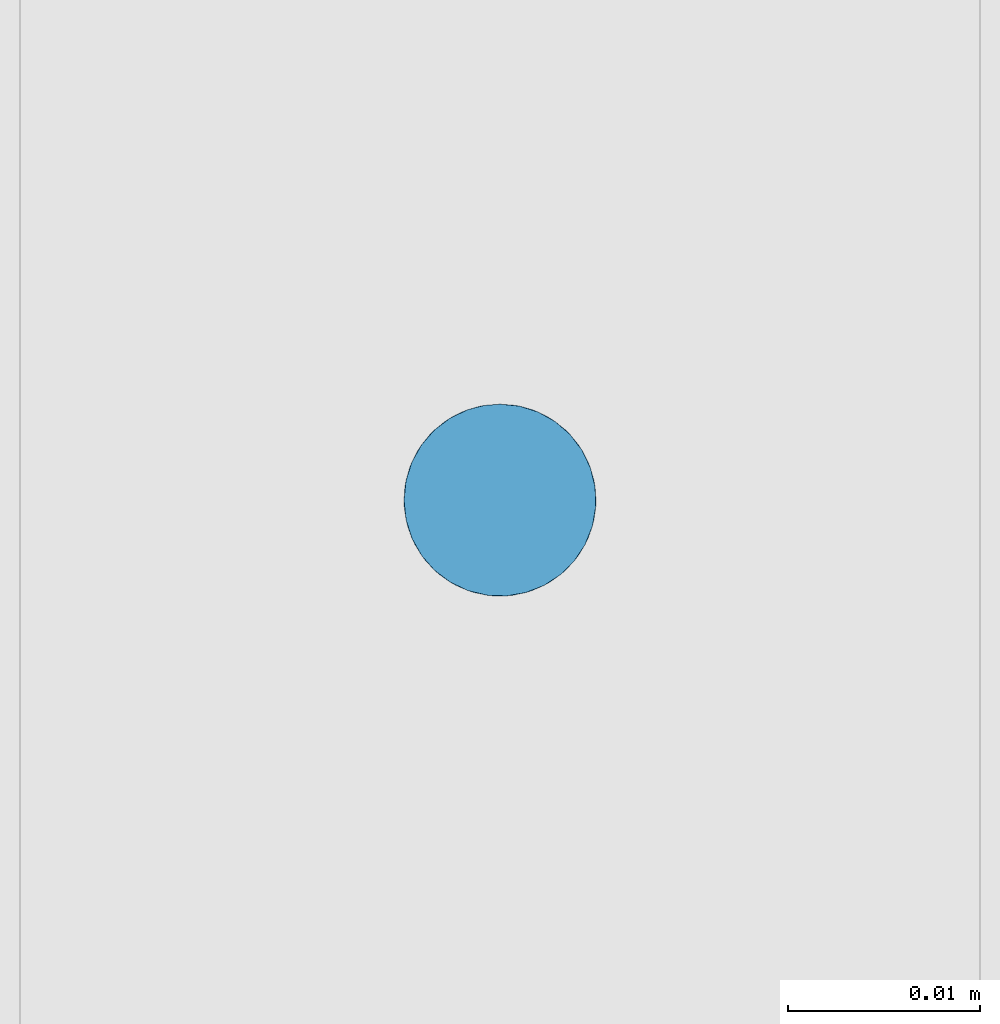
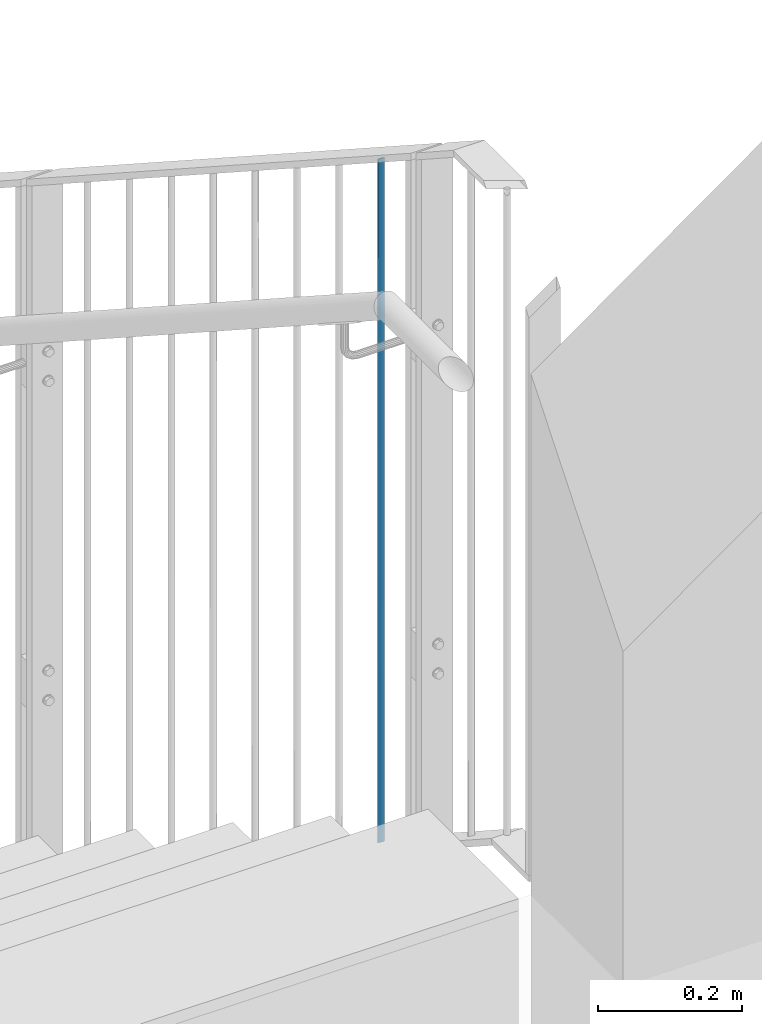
# One storey, part 29 of 296: 1 column.
"""IFC2X3 building model written with IfcOpenShell, lengths in millimetres."""

import ifcopenshell
import ifcopenshell.guid

model = None  # the IFC model being written
_history = None  # IfcOwnerHistory: only IFC2X3 demands one
_inside = {}  # id of a spatial element -> (the spatial element, [elements in it])
_under = {}  # id of a project, library or spatial element -> (it, [spatial elements below it])
_declared = {}  # id of a project -> (the project, [libraries it declares])
_typed = {}  # id of a type object -> (the type object, [elements of that type])
_made_of = {}  # id of a material, layer set ... -> (it, [elements and type objects made of it])


def new_model(schema):
    """Start an empty IFC model of exactly this schema.

    Asked for "IFC4X3", IfcOpenShell would pick the latest addendum, in which some entities
    have other attributes; the version numbers below select the first issue.
    IFC2X3 requires an IfcOwnerHistory on every rooted entity: one is made here for all.
    """
    global model, _history
    if schema == "IFC4X3":
        model = ifcopenshell.file(schema_version=(4, 3, 0, 0))
    else:
        model = ifcopenshell.file(schema=schema)
    _inside.clear()
    _under.clear()
    _declared.clear()
    _typed.clear()
    _made_of.clear()
    _history = None
    if model.schema == "IFC2X3":
        org = make("IfcOrganization", Name="unknown")
        user = make(
            "IfcPersonAndOrganization",
            ThePerson=make("IfcPerson", FamilyName="unknown"),
            TheOrganization=org,
        )
        app = make(
            "IfcApplication",
            ApplicationDeveloper=org,
            Version="unknown",
            ApplicationFullName="unknown",
            ApplicationIdentifier="unknown",
        )
        _history = make(
            "IfcOwnerHistory",
            OwningUser=user,
            OwningApplication=app,
            ChangeAction="ADDED",
            CreationDate=0,
        )
    return model


def make(cls, **values):
    """One entity of the class cls with the attributes given. An attribute that is None is left unset."""
    return model.create_entity(
        cls, **{name: value for name, value in values.items() if value is not None}
    )


def entity(cls, *values):
    """Any entity or typed value of the class cls, its attributes in the order of the schema. None: left unset."""
    e = model.create_entity(cls)
    for i, value in enumerate(values):
        if value is not None:
            e[i] = value
    return e


def rooted(cls, **values):
    """An entity with a GlobalId (a new one), such as an element, a storey or a relation."""
    return make(cls, GlobalId=ifcopenshell.guid.new(), OwnerHistory=_history, **values)


def si_unit(unit_type, name, prefix=None):
    """IfcSIUnit, for example si_unit("LENGTHUNIT", "METRE", prefix="MILLI")."""
    return make("IfcSIUnit", UnitType=unit_type, Prefix=prefix, Name=name)


def converted_unit(unit_type, name, factor, base, dimensions=None, offset=None):
    """IfcConversionBasedUnit, such as the inch: factor (a typed value) times the base unit."""
    return make(
        "IfcConversionBasedUnit"
        if offset is None
        else "IfcConversionBasedUnitWithOffset",
        ConversionOffset=offset,
        Dimensions=None
        if dimensions is None
        else entity("IfcDimensionalExponents", *dimensions),
        UnitType=unit_type,
        Name=name,
        ConversionFactor=make(
            "IfcMeasureWithUnit", ValueComponent=factor, UnitComponent=base
        ),
    )


def assignment(units):
    """IfcUnitAssignment: the units of a project."""
    return None if units is None else make("IfcUnitAssignment", Units=units)


def point(xyz):
    """IfcCartesianPoint."""
    return None if xyz is None else make("IfcCartesianPoint", Coordinates=xyz)


def direction(xyz):
    """IfcDirection."""
    return None if xyz is None else make("IfcDirection", DirectionRatios=xyz)


def frame(location, z_axis=None, x_axis=None):
    """IfcAxis2Placement3D, a coordinate frame: its origin and axes. An axis left out is left unset."""
    return make(
        "IfcAxis2Placement3D",
        Location=point(location),
        Axis=direction(z_axis),
        RefDirection=direction(x_axis),
    )


def frame_2d(location, x_axis=None):
    """IfcAxis2Placement2D, a coordinate frame in the plane: its origin and x axis."""
    return make(
        "IfcAxis2Placement2D", Location=point(location), RefDirection=direction(x_axis)
    )


def origin():
    """The frame at (0, 0, 0) with its axes left unset."""
    return frame((0.0, 0.0, 0.0))


def origin_with_axes():
    """The frame at (0, 0, 0) with the z axis (0, 0, 1) and the x axis (1, 0, 0) written out."""
    return frame((0.0, 0.0, 0.0), z_axis=(0.0, 0.0, 1.0), x_axis=(1.0, 0.0, 0.0))


def origin_2d():
    """The frame at (0, 0) in the plane with its x axis left unset."""
    return frame_2d((0.0, 0.0))


def place(relative_to, where):
    """IfcLocalPlacement: puts the frame where relative to a parent placement (None: the world)."""
    return make(
        "IfcLocalPlacement", PlacementRelTo=relative_to, RelativePlacement=where
    )


def context(
    kind, dimensions, precision=None, world=None, true_north=None, identifier=None
):
    """IfcGeometricRepresentationContext, for example the 3D "Model" context."""
    return make(
        "IfcGeometricRepresentationContext",
        ContextIdentifier=identifier,
        ContextType=kind,
        CoordinateSpaceDimension=dimensions,
        Precision=precision,
        WorldCoordinateSystem=world,
        TrueNorth=true_north,
    )


def project(units=None, contexts=None):
    """IfcProject with its units and contexts."""
    return rooted(
        "IfcProject",
        Name="project",
        RepresentationContexts=contexts,
        UnitsInContext=assignment(units),
    )


def spatial(cls, under=None, at=None, **own):
    """A site, building, storey or space (cls), placed at a placement, below another one or the project."""
    s = rooted(cls, ObjectPlacement=at, **own)
    if under is not None:
        _under.setdefault(under.id(), (under, []))[1].append(s)
    return s


def profile(cls, at=None, kind="AREA", **sizes):
    """A parametric profile (cls). Its sizes go by their IFC names, for example OverallWidth=200.0."""
    return make(cls, ProfileType=kind, Position=at, **sizes)


def circle(**sizes):
    """IfcCircleProfileDef."""
    return profile("IfcCircleProfileDef", **sizes)


def extrude(swept, where, along, depth):
    """IfcExtrudedAreaSolid: the profile swept, set in the frame where, extruded along a direction by depth."""
    return make(
        "IfcExtrudedAreaSolid",
        SweptArea=swept,
        Position=where,
        ExtrudedDirection=direction(along),
        Depth=depth,
    )


def clip(a, b, op="DIFFERENCE"):
    """IfcBooleanClippingResult: the solid a cut by the half space b."""
    return make(
        "IfcBooleanClippingResult", Operator=op, FirstOperand=a, SecondOperand=b
    )


def halfspace(plane, agree):
    """IfcHalfSpaceSolid: all space on one side of the plane z = 0 of the frame plane."""
    return make(
        "IfcHalfSpaceSolid",
        BaseSurface=make("IfcPlane", Position=plane),
        AgreementFlag=agree,
    )


def shape(context_of_items, identifier, shape_type, items):
    """IfcShapeRepresentation: the items that make up one representation, for example the "Body"."""
    return make(
        "IfcShapeRepresentation",
        ContextOfItems=context_of_items,
        RepresentationIdentifier=identifier,
        RepresentationType=shape_type,
        Items=items,
    )


def material(Name=None, Category=None):
    """IfcMaterial."""
    return make("IfcMaterial", Name=Name, Category=Category)


def made_of(thing, what):
    """Note that an element or type object is made of a material, layer set ...; save() writes the relation."""
    if what is not None:
        _made_of.setdefault(what.id(), (what, []))[1].append(thing)
    return thing


def element(
    cls,
    number,
    at=None,
    inside=None,
    cuts=None,
    type_object=None,
    material=None,
    context=None,
    identifier="Body",
    shape_type=None,
    held_by="IfcProductDefinitionShape",
    body=None,
    shapes=None,
    **own,
):
    """One element of the class cls, such as IfcWall. Its Tag is "e" and its number.

    at: its placement. inside: the storey or other place that contains it. cuts: it is an
    opening in that element (IfcRelVoidsElement). A single representation is given by context,
    identifier, shape_type and body (its items); several are given by shapes. held_by: the class
    of the entity that holds the representations. save() writes the other relations.
    """
    e = rooted(cls, Tag="e%d" % number, ObjectPlacement=at, **own)
    if body is not None:
        shapes = [shape(context, identifier, shape_type, body)]
    if shapes is not None:
        e.Representation = make(held_by, Representations=shapes)
    if inside is not None:
        _inside.setdefault(inside.id(), (inside, []))[1].append(e)
    if cuts is not None:
        rooted(
            "IfcRelVoidsElement", RelatingBuildingElement=cuts, RelatedOpeningElement=e
        )
    if type_object is not None:
        _typed.setdefault(type_object.id(), (type_object, []))[1].append(e)
    return made_of(e, material)


def aggregate(whole, parts):
    """IfcRelAggregates: a whole, such as a stair, and the parts it consists of."""
    return rooted("IfcRelAggregates", RelatingObject=whole, RelatedObjects=parts)


def save(model, path):
    """Write the relations noted so far, then the file.

    IfcRelAggregates (storeys below a building ...), IfcRelContainedInSpatialStructure (elements
    in a storey), IfcRelDefinesByType, IfcRelAssociatesMaterial and IfcRelDeclares: one each for
    every whole, place, type object, material and project.
    """
    for whole, parts in _under.values():
        aggregate(whole, parts)
    for where, things in _inside.values():
        rooted(
            "IfcRelContainedInSpatialStructure",
            RelatedElements=things,
            RelatingStructure=where,
        )
    for kind, things in _typed.values():
        rooted("IfcRelDefinesByType", RelatedObjects=things, RelatingType=kind)
    for what, things in _made_of.values():
        rooted("IfcRelAssociatesMaterial", RelatedObjects=things, RelatingMaterial=what)
    for by, libraries in _declared.values():
        rooted("IfcRelDeclares", RelatingContext=by, RelatedDefinitions=libraries)
    model.write(path)


model = new_model("IFC2X3")

# Units and contexts
model_context = context("Model", 3, precision=1e-09, world=origin_with_axes())
ifc_project = project(units=[si_unit("LENGTHUNIT", "METRE", prefix="MILLI"), si_unit("AREAUNIT", "SQUARE_METRE"), si_unit("VOLUMEUNIT", "CUBIC_METRE"), converted_unit("PLANEANGLEUNIT", "DEGREE", entity("IfcPlaneAngleMeasure", 0.01745329), si_unit("PLANEANGLEUNIT", "RADIAN"), dimensions=[0, 0, 0, 0, 0, 0, 0])], contexts=[model_context])

# Site, building, storey
site_placement = place(None, origin_with_axes())
site = spatial("IfcSite", under=ifc_project, at=site_placement, Name="TZD-S?d | Treppenhausgel?nder", CompositionType="ELEMENT")
building_placement = place(site_placement, origin_with_axes())
building = spatial("IfcBuilding", under=site, at=building_placement, Name="Struktur 1", CompositionType="ELEMENT")
storey_placement = place(building_placement, origin_with_axes())
storey = spatial("IfcBuildingStorey", under=building, at=storey_placement, Name="Default Storey", CompositionType="ELEMENT", Elevation=0.0)

# Column
ifc_material = material(Name="S235JR")
column_placement = place(None, frame((5894.999, -3281.3888889, 9559.752855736), z_axis=(0.0, 0.0, -1.0), x_axis=(0.0, 1.0, 0.0)))
element("IfcColumn", 1, at=column_placement, inside=storey, material=ifc_material, Name="-", ObjectType="-", context=model_context, shape_type="Clipping", body=[
    clip(clip(extrude(circle(Radius=5.0, at=origin_2d()), origin(), (0.0, 0.0, -1.0), 1184.934996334), halfspace(frame((7207.639572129, -5894.999, 3497.562537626), z_axis=(-0.543608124, 0.0, 0.839339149), x_axis=(0.0, 1.0, 0.0)), True)), halfspace(frame((6680.112356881, -5894.999, 4312.072520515), z_axis=(0.543608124, 0.0, -0.839339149), x_axis=(0.0, -1.0, 0.0)), True)),
])

save(model, "model.ifc")
